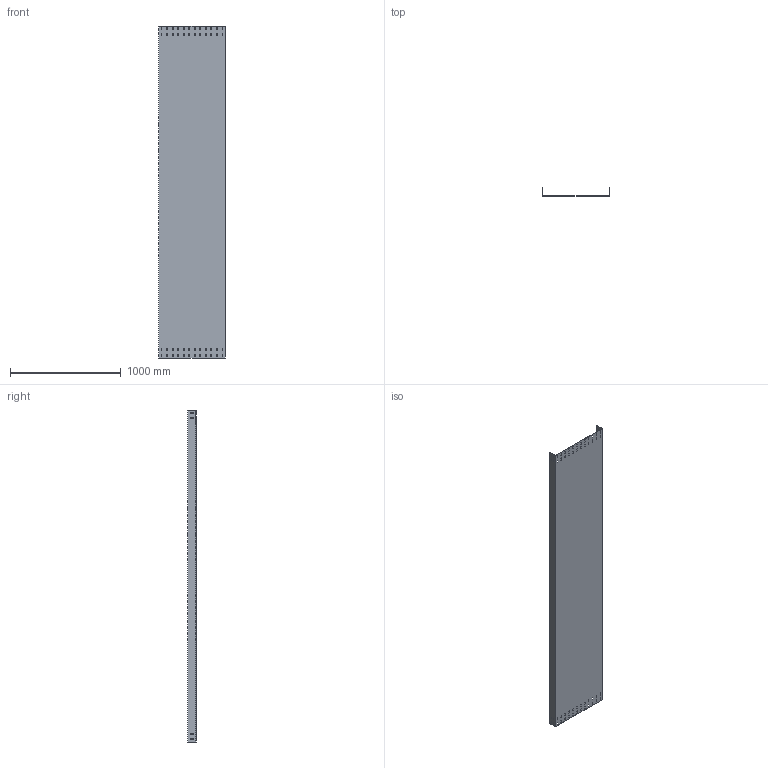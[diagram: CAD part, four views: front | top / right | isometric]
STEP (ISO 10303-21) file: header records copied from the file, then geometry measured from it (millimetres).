
FILE_DESCRIPTION (( 'STEP AP214' ), '1' );
FILE_NAME ('CF_607.step', '2025-07-16T09:06:30', ( '' ), ( '' ), 'SwSTEP 2.0', 'SolidWorks 2023', '' );
FILE_SCHEMA (( 'AUTOMOTIVE_DESIGN' ));
Length unit declared in the file: millimetre
Products named in the file (1): CF_607
Bounding box: 600 x 75 x 3000 mm (x, y, z)
Volume: 3349740 mm3; surface area: 4482265 mm2
Topology: 1 solids, 1 shells, 266 faces, 792 edges, 528 vertices
Faces by surface type: plane 266
Entity records: 9015 total; most frequent: CARTESIAN_POINT 1587, ORIENTED_EDGE 1584, DIRECTION 1326, EDGE_CURVE 792, LINE 792, VECTOR 792, VERTEX_POINT 528, EDGE_LOOP 394
